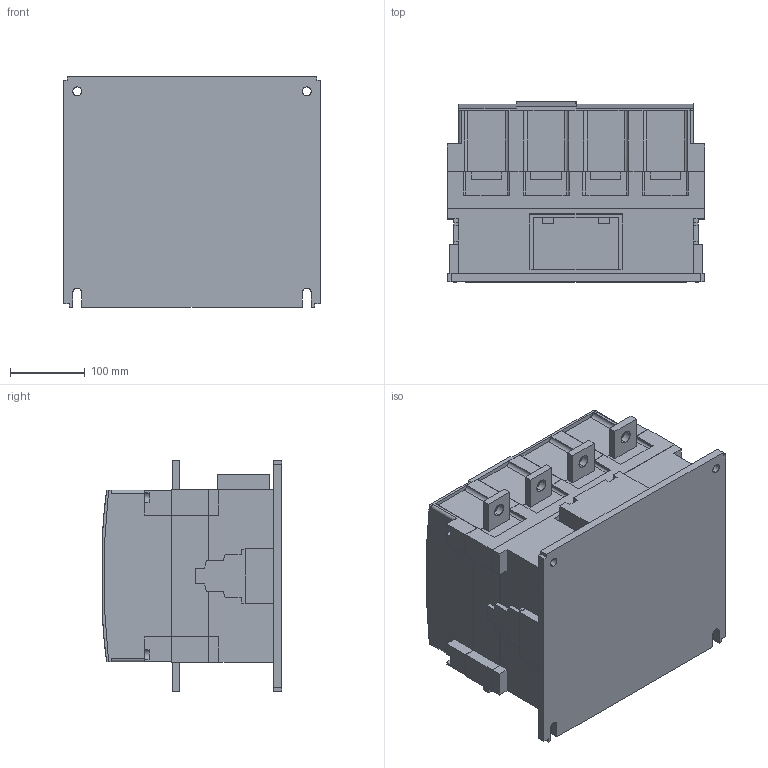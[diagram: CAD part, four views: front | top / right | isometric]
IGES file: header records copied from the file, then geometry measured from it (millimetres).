
Start section: SolidWorks IGES file using analytic representation for surfaces
Global section: file name: \\Brjgs100\dfsweg\GROUPS\BR_SC_JGS_WA_TECNICO\ENG\Usuarios\Rodrigob\conversão\contatores\Produto\CWM500...800_4P\CWM500...800_4P.IGS; native system: SolidWorks 2018; preprocessor: SolidWorks 2018; author: rodrigob; date: 210415.080053; units: millimetre
Bounding box: 346 x 241.3 x 310 mm (x, y, z)
Surface area: 641720.3 mm2 (no closed solid volume)
Topology: 0 solids, 0 shells, 387 faces, 3493 edges, 3493 vertices
Faces by surface type: bspline 320, revolution 67
